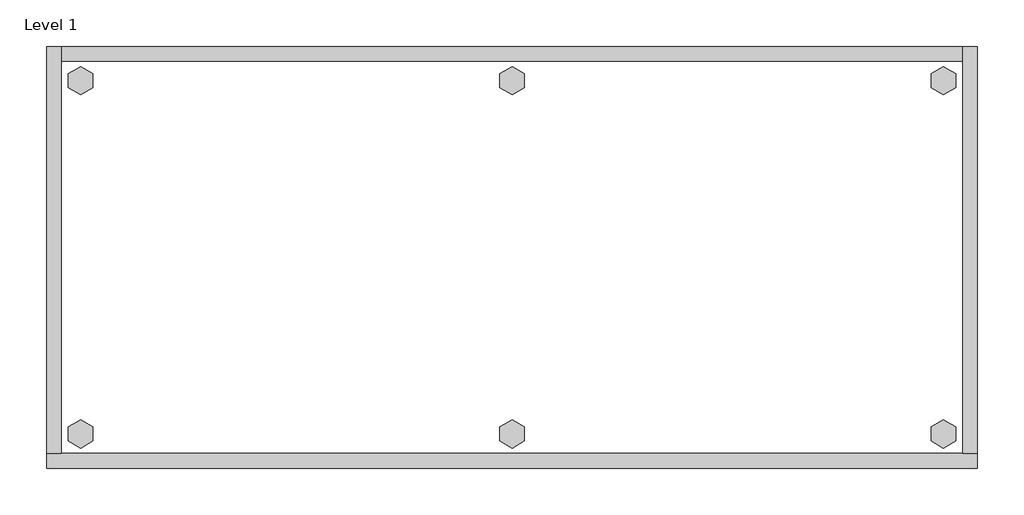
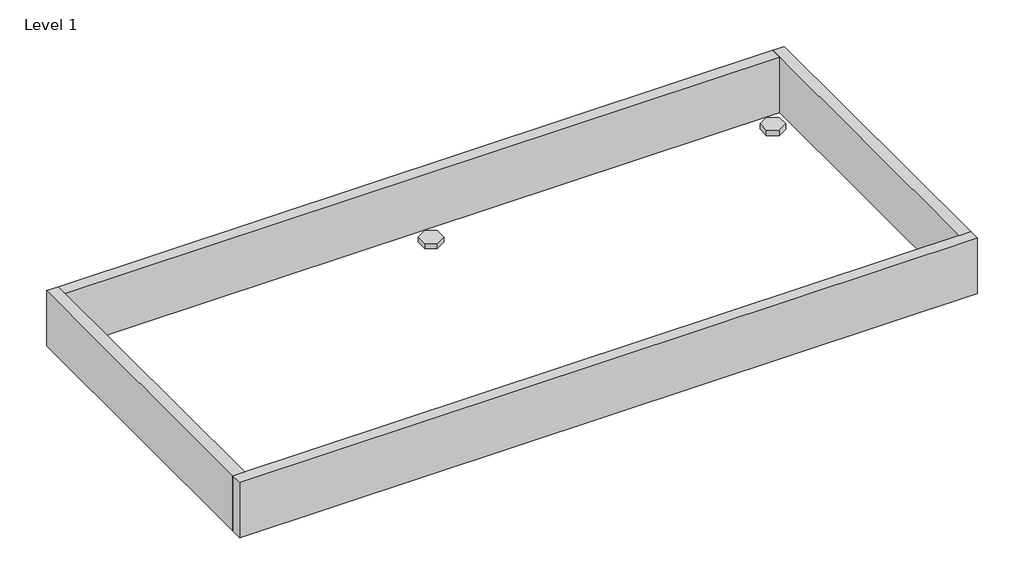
# One storey, incomplete: 1 furniture element.
"""IFC4 building model written with IfcOpenShell, lengths in millimetres."""

import ifcopenshell
import ifcopenshell.guid

model = None  # the IFC model being written
_history = None  # IfcOwnerHistory: only IFC2X3 demands one
_inside = {}  # id of a spatial element -> (the spatial element, [elements in it])
_under = {}  # id of a project, library or spatial element -> (it, [spatial elements below it])
_declared = {}  # id of a project -> (the project, [libraries it declares])
_typed = {}  # id of a type object -> (the type object, [elements of that type])
_made_of = {}  # id of a material, layer set ... -> (it, [elements and type objects made of it])


def new_model(schema):
    """Start an empty IFC model of exactly this schema.

    Asked for "IFC4X3", IfcOpenShell would pick the latest addendum, in which some entities
    have other attributes; the version numbers below select the first issue.
    IFC2X3 requires an IfcOwnerHistory on every rooted entity: one is made here for all.
    """
    global model, _history
    if schema == "IFC4X3":
        model = ifcopenshell.file(schema_version=(4, 3, 0, 0))
    else:
        model = ifcopenshell.file(schema=schema)
    _inside.clear()
    _under.clear()
    _declared.clear()
    _typed.clear()
    _made_of.clear()
    _history = None
    if model.schema == "IFC2X3":
        org = make("IfcOrganization", Name="unknown")
        user = make(
            "IfcPersonAndOrganization",
            ThePerson=make("IfcPerson", FamilyName="unknown"),
            TheOrganization=org,
        )
        app = make(
            "IfcApplication",
            ApplicationDeveloper=org,
            Version="unknown",
            ApplicationFullName="unknown",
            ApplicationIdentifier="unknown",
        )
        _history = make(
            "IfcOwnerHistory",
            OwningUser=user,
            OwningApplication=app,
            ChangeAction="ADDED",
            CreationDate=0,
        )
    return model


def make(cls, **values):
    """One entity of the class cls with the attributes given. An attribute that is None is left unset."""
    return model.create_entity(
        cls, **{name: value for name, value in values.items() if value is not None}
    )


def rooted(cls, **values):
    """An entity with a GlobalId (a new one), such as an element, a storey or a relation."""
    return make(cls, GlobalId=ifcopenshell.guid.new(), OwnerHistory=_history, **values)


def si_unit(unit_type, name, prefix=None):
    """IfcSIUnit, for example si_unit("LENGTHUNIT", "METRE", prefix="MILLI")."""
    return make("IfcSIUnit", UnitType=unit_type, Prefix=prefix, Name=name)


def assignment(units):
    """IfcUnitAssignment: the units of a project."""
    return None if units is None else make("IfcUnitAssignment", Units=units)


def point(xyz):
    """IfcCartesianPoint."""
    return None if xyz is None else make("IfcCartesianPoint", Coordinates=xyz)


def direction(xyz):
    """IfcDirection."""
    return None if xyz is None else make("IfcDirection", DirectionRatios=xyz)


def frame(location, z_axis=None, x_axis=None):
    """IfcAxis2Placement3D, a coordinate frame: its origin and axes. An axis left out is left unset."""
    return make(
        "IfcAxis2Placement3D",
        Location=point(location),
        Axis=direction(z_axis),
        RefDirection=direction(x_axis),
    )


def origin():
    """The frame at (0, 0, 0) with its axes left unset."""
    return frame((0.0, 0.0, 0.0))


def origin_with_axes():
    """The frame at (0, 0, 0) with the z axis (0, 0, 1) and the x axis (1, 0, 0) written out."""
    return frame((0.0, 0.0, 0.0), z_axis=(0.0, 0.0, 1.0), x_axis=(1.0, 0.0, 0.0))


def place(relative_to, where):
    """IfcLocalPlacement: puts the frame where relative to a parent placement (None: the world)."""
    return make(
        "IfcLocalPlacement", PlacementRelTo=relative_to, RelativePlacement=where
    )


def context(
    kind, dimensions, precision=None, world=None, true_north=None, identifier=None
):
    """IfcGeometricRepresentationContext, for example the 3D "Model" context."""
    return make(
        "IfcGeometricRepresentationContext",
        ContextIdentifier=identifier,
        ContextType=kind,
        CoordinateSpaceDimension=dimensions,
        Precision=precision,
        WorldCoordinateSystem=world,
        TrueNorth=true_north,
    )


def project(units=None, contexts=None):
    """IfcProject with its units and contexts."""
    return rooted(
        "IfcProject",
        Name="project",
        RepresentationContexts=contexts,
        UnitsInContext=assignment(units),
    )


def spatial(cls, under=None, at=None, **own):
    """A site, building, storey or space (cls), placed at a placement, below another one or the project."""
    s = rooted(cls, ObjectPlacement=at, **own)
    if under is not None:
        _under.setdefault(under.id(), (under, []))[1].append(s)
    return s


def polyline(points):
    """IfcPolyline through the points."""
    return make("IfcPolyline", Points=[point(p) for p in points])


def outline(outer, holes=None, kind="AREA"):
    """IfcArbitraryClosedProfileDef: a profile drawn as a closed curve; with holes, ...WithVoids."""
    if holes is None:
        return make("IfcArbitraryClosedProfileDef", ProfileType=kind, OuterCurve=outer)
    return make(
        "IfcArbitraryProfileDefWithVoids",
        ProfileType=kind,
        OuterCurve=outer,
        InnerCurves=holes,
    )


def extrude(swept, where, along, depth):
    """IfcExtrudedAreaSolid: the profile swept, set in the frame where, extruded along a direction by depth."""
    return make(
        "IfcExtrudedAreaSolid",
        SweptArea=swept,
        Position=where,
        ExtrudedDirection=direction(along),
        Depth=depth,
    )


def shape(context_of_items, identifier, shape_type, items):
    """IfcShapeRepresentation: the items that make up one representation, for example the "Body"."""
    return make(
        "IfcShapeRepresentation",
        ContextOfItems=context_of_items,
        RepresentationIdentifier=identifier,
        RepresentationType=shape_type,
        Items=items,
    )


def source(mapping_origin, context_of_items, identifier, shape_type, items):
    """IfcRepresentationMap: a shape defined once, which mapped items show again and again."""
    return make(
        "IfcRepresentationMap",
        MappingOrigin=mapping_origin,
        MappedRepresentation=shape(context_of_items, identifier, shape_type, items),
    )


def transform(
    local_origin,
    x_axis=None,
    y_axis=None,
    z_axis=None,
    scale=None,
    scale2=None,
    scale3=None,
    uniform=True,
):
    """IfcCartesianTransformationOperator3D, or its non-uniform kind. x_axis, y_axis, z_axis: its Axis1, 2, 3."""
    if uniform:
        return make(
            "IfcCartesianTransformationOperator3D",
            Axis1=direction(x_axis),
            Axis2=direction(y_axis),
            LocalOrigin=point(local_origin),
            Scale=scale,
            Axis3=direction(z_axis),
        )
    return make(
        "IfcCartesianTransformationOperator3DnonUniform",
        Axis1=direction(x_axis),
        Axis2=direction(y_axis),
        LocalOrigin=point(local_origin),
        Scale=scale,
        Axis3=direction(z_axis),
        Scale2=scale2,
        Scale3=scale3,
    )


def mapped(mapping_source, mapping_target):
    """IfcMappedItem: shows the shape of a source again, moved by a transform."""
    return make(
        "IfcMappedItem", MappingSource=mapping_source, MappingTarget=mapping_target
    )


def made_of(thing, what):
    """Note that an element or type object is made of a material, layer set ...; save() writes the relation."""
    if what is not None:
        _made_of.setdefault(what.id(), (what, []))[1].append(thing)
    return thing


def element(
    cls,
    number,
    at=None,
    inside=None,
    cuts=None,
    type_object=None,
    material=None,
    context=None,
    identifier="Body",
    shape_type=None,
    held_by="IfcProductDefinitionShape",
    body=None,
    shapes=None,
    **own,
):
    """One element of the class cls, such as IfcWall. Its Tag is "e" and its number.

    at: its placement. inside: the storey or other place that contains it. cuts: it is an
    opening in that element (IfcRelVoidsElement). A single representation is given by context,
    identifier, shape_type and body (its items); several are given by shapes. held_by: the class
    of the entity that holds the representations. save() writes the other relations.
    """
    e = rooted(cls, Tag="e%d" % number, ObjectPlacement=at, **own)
    if body is not None:
        shapes = [shape(context, identifier, shape_type, body)]
    if shapes is not None:
        e.Representation = make(held_by, Representations=shapes)
    if inside is not None:
        _inside.setdefault(inside.id(), (inside, []))[1].append(e)
    if cuts is not None:
        rooted(
            "IfcRelVoidsElement", RelatingBuildingElement=cuts, RelatedOpeningElement=e
        )
    if type_object is not None:
        _typed.setdefault(type_object.id(), (type_object, []))[1].append(e)
    return made_of(e, material)


def aggregate(whole, parts):
    """IfcRelAggregates: a whole, such as a stair, and the parts it consists of."""
    return rooted("IfcRelAggregates", RelatingObject=whole, RelatedObjects=parts)


def save(model, path):
    """Write the relations noted so far, then the file.

    IfcRelAggregates (storeys below a building ...), IfcRelContainedInSpatialStructure (elements
    in a storey), IfcRelDefinesByType, IfcRelAssociatesMaterial and IfcRelDeclares: one each for
    every whole, place, type object, material and project.
    """
    for whole, parts in _under.values():
        aggregate(whole, parts)
    for where, things in _inside.values():
        rooted(
            "IfcRelContainedInSpatialStructure",
            RelatedElements=things,
            RelatingStructure=where,
        )
    for kind, things in _typed.values():
        rooted("IfcRelDefinesByType", RelatedObjects=things, RelatingType=kind)
    for what, things in _made_of.values():
        rooted("IfcRelAssociatesMaterial", RelatedObjects=things, RelatingMaterial=what)
    for by, libraries in _declared.values():
        rooted("IfcRelDeclares", RelatingContext=by, RelatedDefinitions=libraries)
    model.write(path)


def furniture_ceff2c2c(model_context):
    return source(origin(), model_context, "Body", "SweptSolid", [
        extrude(outline(polyline([(1158.5735422, -498.8179), (1174.5214, -489.6104), (1190.4692578, -498.8179), (1190.4692578, -517.2329), (1174.5214, -526.4404), (1158.5735422, -517.2329), (1158.5735422, -498.8179)])), origin_with_axes(), (0.0, 0.0, 1.0), 9.144),
        extrude(outline(polyline([(1158.5735422, -35.4711), (1174.5214, -26.2636), (1190.4692578, -35.4711), (1190.4692578, -53.8861), (1174.5214, -63.0936), (1158.5735422, -53.8861), (1158.5735422, -35.4711)])), origin_with_axes(), (0.0, 0.0, 1.0), 9.144),
        extrude(outline(polyline([(593.6521422, -498.8179), (609.6, -489.6104), (625.5478578, -498.8179), (625.5478578, -517.2329), (609.6, -526.4404), (593.6521422, -517.2329), (593.6521422, -498.8179)])), origin_with_axes(), (0.0, 0.0, 1.0), 9.144),
        extrude(outline(polyline([(593.6521422, -35.4711), (609.6, -26.2636), (625.5478578, -35.4711), (625.5478578, -53.8861), (609.6, -63.0936), (593.6521422, -53.8861), (593.6521422, -35.4711)])), origin_with_axes(), (0.0, 0.0, 1.0), 9.144),
        extrude(outline(polyline([(28.7307422, -498.8179), (44.6786, -489.6104), (60.6264578, -498.8179), (60.6264578, -517.2329), (44.6786, -526.4404), (28.7307422, -517.2329), (28.7307422, -498.8179)])), origin_with_axes(), (0.0, 0.0, 1.0), 9.144),
        extrude(outline(polyline([(28.7307422, -35.4711), (44.6786, -26.2636), (60.6264578, -35.4711), (60.6264578, -53.8861), (44.6786, -63.0936), (28.7307422, -53.8861), (28.7307422, -35.4711)])), origin_with_axes(), (0.0, 0.0, 1.0), 9.144),
        extrude(outline(polyline([(19.304, 0.0), (19.304, -533.4), (0.0, -533.4), (0.0, 0.0), (19.304, 0.0)])), frame((0.0, 0.0, 4.699), z_axis=(0.0, 0.0, 1.0), x_axis=(1.0, 0.0, 0.0)), (0.0, 0.0, 1.0), 96.901),
        extrude(outline(polyline([(1219.2, 0.0), (1219.2, -533.4), (1199.896, -533.4), (1199.896, 0.0), (1219.2, 0.0)])), frame((0.0, 0.0, 4.699), z_axis=(0.0, 0.0, 1.0), x_axis=(1.0, 0.0, 0.0)), (0.0, 0.0, 1.0), 96.901),
        extrude(outline(polyline([(1199.896, -19.304), (19.304, -19.304), (19.304, 0.0), (1199.896, 0.0), (1199.896, -19.304)])), frame((0.0, 0.0, 4.699), z_axis=(0.0, 0.0, 1.0), x_axis=(1.0, 0.0, 0.0)), (0.0, 0.0, 1.0), 96.901),
        extrude(outline(polyline([(1219.2, -533.4), (1219.2, -552.704), (0.0, -552.704), (0.0, -533.4), (1219.2, -533.4)])), frame((0.0, 0.0, 4.699), z_axis=(0.0, 0.0, 1.0), x_axis=(1.0, 0.0, 0.0)), (0.0, 0.0, 1.0), 96.901),
    ])


model = new_model("IFC4")

# Units and contexts
model_context = context("Model", 3, world=origin())
ifc_project = project(units=[si_unit("LENGTHUNIT", "METRE", prefix="MILLI")], contexts=[model_context])

# Site, building, storey
site = spatial("IfcSite", under=ifc_project)
building = spatial("IfcBuilding", under=site)
storey = spatial("IfcBuildingStorey", under=building, Name="Level 1", Elevation=0.0)

# Furniture
placement = place(None, origin())
furniture_shape = furniture_ceff2c2c(model_context)
element("IfcFurniture", 1, ObjectType="HermanMiller_Mora_CH250_PlinthBaseFinished : Flush on Both/Inline HPL 24D 48W", at=placement, inside=storey, context=model_context, shape_type="MappedRepresentation", body=[
    mapped(furniture_shape, transform((0.0, 0.0, 0.0), x_axis=(1.0, 0.0, 0.0), y_axis=(0.0, 1.0, 0.0), z_axis=(0.0, 0.0, 1.0))),
])

save(model, "model.ifc")
